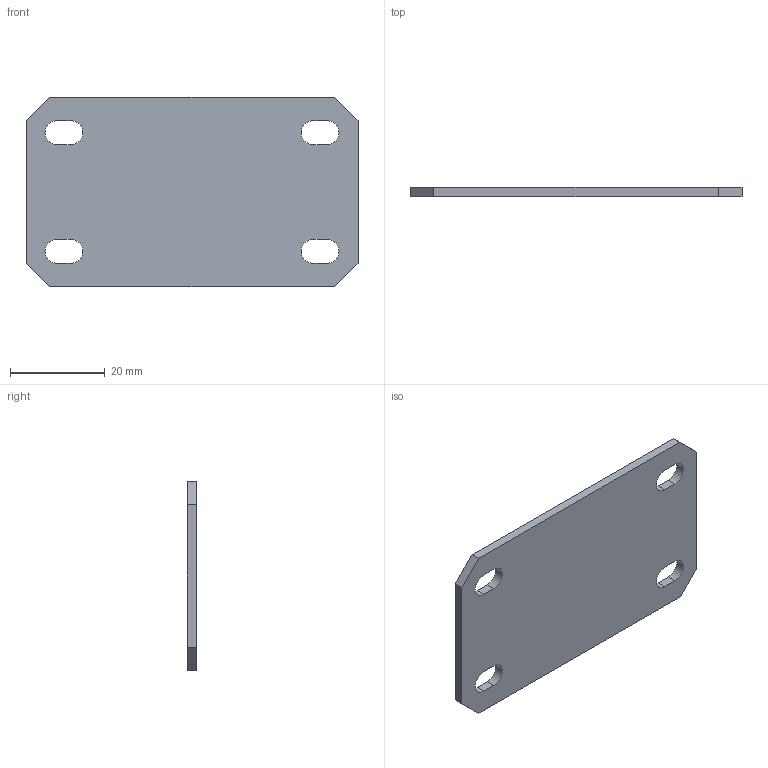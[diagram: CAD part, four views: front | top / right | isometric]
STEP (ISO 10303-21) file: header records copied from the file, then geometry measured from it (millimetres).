
FILE_DESCRIPTION (( 'STEP AP203' ), '1' );
FILE_NAME ('MA1.900.000000.01.01 Ñîåäèíèòåëüíàÿ ïëàñòèíà.STEP', '2024-09-03T13:26:38', ( '' ), ( '' ), 'SwSTEP 2.0', 'SolidWorks 2021', '' );
FILE_SCHEMA (( 'CONFIG_CONTROL_DESIGN' ));
Length unit declared in the file: millimetre
Products named in the file (1): MA1.900.000000.01.01 Ñîåäèíèòåëüíàÿ ïëàñòèíà
Bounding box: 70 x 2 x 40 mm (x, y, z)
Volume: 5222.9 mm3; surface area: 5813.2 mm2
Topology: 1 solids, 1 shells, 30 faces, 84 edges, 56 vertices
Faces by surface type: plane 18, cylinder 12
Entity records: 1065 total; most frequent: CARTESIAN_POINT 171, DIRECTION 170, ORIENTED_EDGE 168, EDGE_CURVE 84, VECTOR 60, LINE 60, VERTEX_POINT 56, AXIS2_PLACEMENT_3D 55
